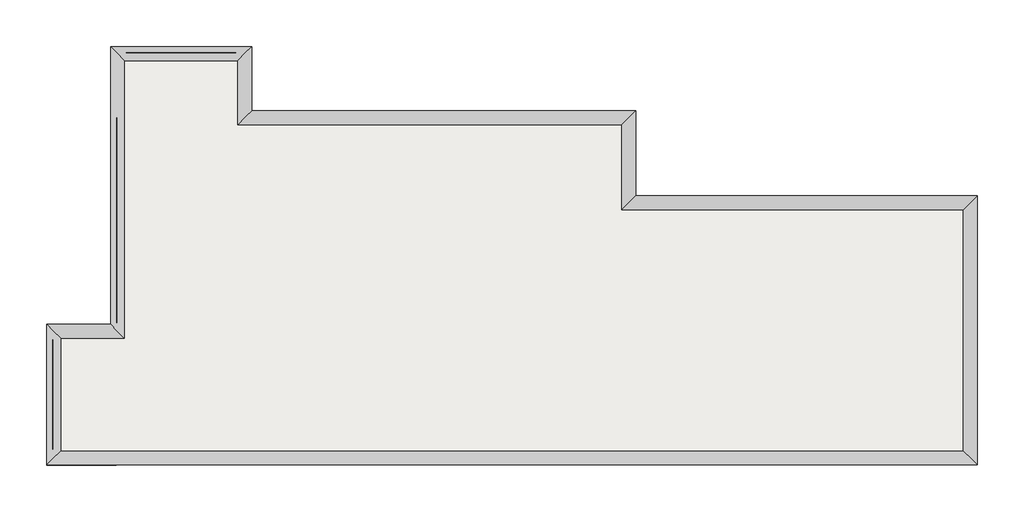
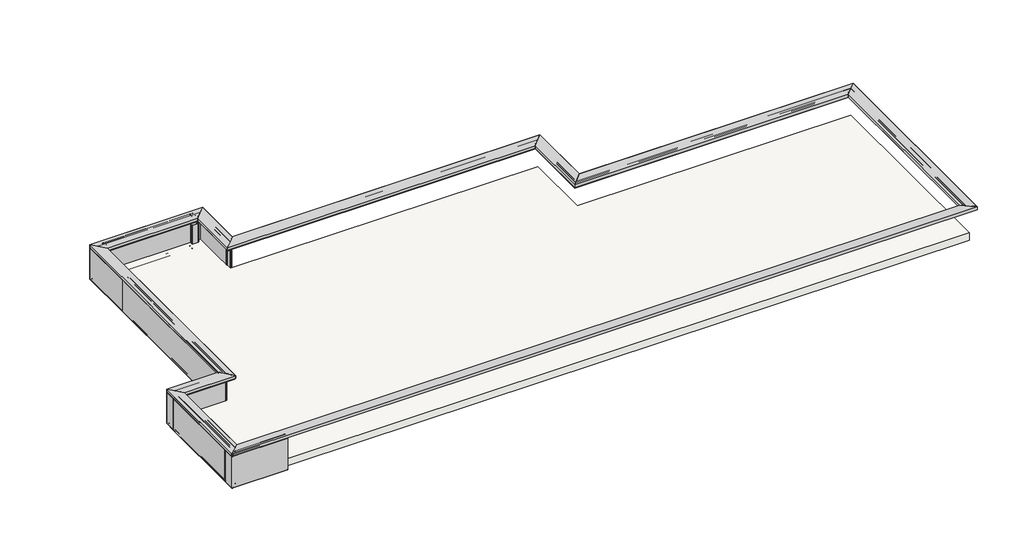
# One storey: 10 proxies, 7 plates, 4 columns, 1 slab.
"""IFC4 building model written with IfcOpenShell, lengths in millimetres."""

from ifc_helpers import new_model, si_unit, frame, origin, place, context, project, spatial, polyline, outline, extrude, transform, mapped, element, save
from components import generic_models_e1d63aaf, generic_models_c406717c, generic_models_abf757f7, generic_models_93ef42b6, generic_models_881d6d34, generic_models_0423d03b, generic_models_c6e7b0bf, generic_models_9ea7565c, generic_models_2194bbd3, generic_models_a8cdbed0, column_200x100x10rhs_d5a4da81, column_200x100x10rhs_a3d8feab, plate_2167fe72, plate_74780102, plate_8496f46f, plate_86350484, plate_61fb994c, plate_5a5dce70, plate_8fd71738, plate_ab96fd29

model = new_model("IFC4")

# Units and contexts
model_context = context("Model", 3, world=origin())
ifc_project = project(units=[si_unit("LENGTHUNIT", "METRE", prefix="MILLI")], contexts=[model_context])

# Site, building, storey
site = spatial("IfcSite", under=ifc_project)
building = spatial("IfcBuilding", under=site)
storey = spatial("IfcBuildingStorey", under=building, Name="Кровля", Elevation=5025.0)

# Proxies
placement = place(None, origin())
generic_models_shape = generic_models_e1d63aaf(model_context)
element("IfcBuildingElementProxy", 1, Name="АК5_1 Парапет : АК5_1 Парапет", ObjectType="АК5_1 Парапет : АК5_1 Парапет", at=placement, inside=storey, context=model_context, shape_type="MappedRepresentation", body=[
    mapped(generic_models_shape, transform((-0.6266445, 0.6539278, 6025.0), x_axis=(1.0, 0.0, 0.0), y_axis=(0.0, 1.0, 0.0), z_axis=(0.0, 0.0, 1.0))),
])
generic_models_2_shape = generic_models_c406717c(model_context)
element("IfcBuildingElementProxy", 2, Name="АК5_1 Парапет : АК5_1 Парапет", ObjectType="АК5_1 Парапет : АК5_1 Парапет", at=placement, inside=storey, context=model_context, shape_type="MappedRepresentation", body=[
    mapped(generic_models_2_shape, transform((21500.5926164, 0.6539278, 6025.0), x_axis=(0.0, 1.0, 0.0), y_axis=(-1.0, 0.0, 0.0), z_axis=(0.0, 0.0, 1.0))),
])
generic_models_3_shape = generic_models_abf757f7(model_context)
element("IfcBuildingElementProxy", 3, Name="АК5_1 Парапет : АК5_1 Парапет", ObjectType="АК5_1 Парапет : АК5_1 Парапет", at=placement, inside=storey, context=model_context, shape_type="MappedRepresentation", body=[
    mapped(generic_models_3_shape, transform((21500.5926164, 6001.0027972, 6025.0), x_axis=(-1.0, 0.0, 0.0), y_axis=(0.0, -1.0, 0.0), z_axis=(0.0, 0.0, 1.0))),
])
generic_models_4_shape = generic_models_93ef42b6(model_context)
element("IfcBuildingElementProxy", 4, Name="АК5_1 Парапет : АК5_1 Парапет", ObjectType="АК5_1 Парапет : АК5_1 Парапет", at=placement, inside=storey, context=model_context, shape_type="MappedRepresentation", body=[
    mapped(generic_models_4_shape, transform((13500.3769569, 6001.0027972, 6025.0), x_axis=(0.0, 1.0, 0.0), y_axis=(-1.0, 0.0, 0.0), z_axis=(0.0, 0.0, 1.0))),
])
generic_models_5_shape = generic_models_881d6d34(model_context)
element("IfcBuildingElementProxy", 5, Name="АК5_1 Парапет : АК5_1 Парапет", ObjectType="АК5_1 Парапет : АК5_1 Парапет", at=placement, inside=storey, context=model_context, shape_type="MappedRepresentation", body=[
    mapped(generic_models_5_shape, transform((13500.3769569, 8000.3865263, 6025.0), x_axis=(-1.0, 0.0, 0.0), y_axis=(0.0, -1.0, 0.0), z_axis=(0.0, 0.0, 1.0))),
])
generic_models_6_shape = generic_models_0423d03b(model_context)
element("IfcBuildingElementProxy", 6, Name="АК5_1 Парапет : АК5_1 Парапет", ObjectType="АК5_1 Парапет : АК5_1 Парапет", at=placement, inside=storey, context=model_context, shape_type="MappedRepresentation", body=[
    mapped(generic_models_6_shape, transform((4500.3722896, 8000.3865263, 6025.0), x_axis=(0.0, 1.0, 0.0), y_axis=(-1.0, 0.0, 0.0), z_axis=(0.0, 0.0, 1.0))),
])
generic_models_7_shape = generic_models_c6e7b0bf(model_context)
element("IfcBuildingElementProxy", 7, Name="АК5_1 Парапет : АК5_1 Парапет", ObjectType="АК5_1 Парапет : АК5_1 Парапет", at=placement, inside=storey, context=model_context, shape_type="MappedRepresentation", body=[
    mapped(generic_models_7_shape, transform((4500.3722896, 9499.4709215, 6025.0), x_axis=(-1.0, 0.0, 0.0), y_axis=(0.0, -1.0, 0.0), z_axis=(0.0, 0.0, 1.0))),
])
generic_models_8_shape = generic_models_9ea7565c(model_context)
element("IfcBuildingElementProxy", 8, Name="АК5_1 Парапет : АК5_1 Парапет", ObjectType="АК5_1 Парапет : АК5_1 Парапет", at=placement, inside=storey, context=model_context, shape_type="MappedRepresentation", body=[
    mapped(generic_models_8_shape, transform((1497.7448909, 9499.4709215, 6025.0), x_axis=(0.0, -1.0, 0.0), y_axis=(1.0, 0.0, 0.0), z_axis=(0.0, 0.0, 1.0))),
])
generic_models_9_shape = generic_models_2194bbd3(model_context)
element("IfcBuildingElementProxy", 9, Name="АК5_1 Парапет : АК5_1 Парапет", ObjectType="АК5_1 Парапет : АК5_1 Парапет", at=placement, inside=storey, context=model_context, shape_type="MappedRepresentation", body=[
    mapped(generic_models_9_shape, transform((-0.6266445, 2999.7492033, 6025.0), x_axis=(0.0, -1.0, 0.0), y_axis=(1.0, 0.0, 0.0), z_axis=(0.0, 0.0, 1.0))),
])
generic_models_10_shape = generic_models_a8cdbed0(model_context)
element("IfcBuildingElementProxy", 10, Name="АК5_1 Парапет : АК5_1 Парапет", ObjectType="АК5_1 Парапет : АК5_1 Парапет", at=placement, inside=storey, context=model_context, shape_type="MappedRepresentation", body=[
    mapped(generic_models_10_shape, transform((1497.7448909, 2999.7492033, 6025.0), x_axis=(-1.0, 0.0, 0.0), y_axis=(0.0, -1.0, 0.0), z_axis=(0.0, 0.0, 1.0))),
])

# Columns
column_200x100x10rhs_shape = column_200x100x10rhs_d5a4da81(model_context)
element("IfcColumn", 11, ObjectType="ППС-Прямоугольное пустотелое сечение-Колонна : 200x100x10RHS", at=placement, inside=storey, context=model_context, shape_type="MappedRepresentation", body=[
    mapped(column_200x100x10rhs_shape, transform((4300.0, 9450.0, 0.0), x_axis=(0.0, -1.0, 0.0), y_axis=(1.0, 0.0, 0.0), z_axis=(0.0, 0.0, 1.0))),
])
element("IfcColumn", 12, ObjectType="ППС-Прямоугольное пустотелое сечение-Колонна : 200x100x10RHS", at=placement, inside=storey, context=model_context, shape_type="MappedRepresentation", body=[
    mapped(column_200x100x10rhs_shape, transform((1700.0, 9450.0, 0.0), x_axis=(0.0, -1.0, 0.0), y_axis=(1.0, 0.0, 0.0), z_axis=(0.0, 0.0, 1.0))),
])
column_200x100x10rhs_2_shape = column_200x100x10rhs_a3d8feab(model_context)
element("IfcColumn", 13, ObjectType="ППС-Прямоугольное пустотелое сечение-Колонна : 200x100x10RHS", at=placement, inside=storey, context=model_context, shape_type="MappedRepresentation", body=[
    mapped(column_200x100x10rhs_2_shape, transform((50.0, 2800.0, 0.0), x_axis=(-1.0, 0.0, 0.0), y_axis=(0.0, -1.0, 0.0), z_axis=(0.0, 0.0, 1.0))),
])
element("IfcColumn", 14, ObjectType="ППС-Прямоугольное пустотелое сечение-Колонна : 200x100x10RHS", at=placement, inside=storey, context=model_context, shape_type="MappedRepresentation", body=[
    mapped(column_200x100x10rhs_2_shape, transform((50.0, 200.0, 0.0), x_axis=(-1.0, 0.0, 0.0), y_axis=(0.0, -1.0, 0.0), z_axis=(0.0, 0.0, 1.0))),
])

# Plates
plate_shape = plate_2167fe72(model_context)
element("IfcPlate", 15, ObjectType="Fronttop : Fronttop 150/1000", at=placement, inside=storey, context=model_context, shape_type="MappedRepresentation", body=[
    mapped(plate_shape, transform((1500.0, 5582.5, 5025.0), x_axis=(0.0, 1.0, 0.0), y_axis=(-1.0, 0.0, 0.0), z_axis=(0.0, 0.0, 1.0))),
])
plate_2_shape = plate_74780102(model_context)
element("IfcPlate", 16, ObjectType="Fronttop : Fronttop 150/1000", at=placement, inside=storey, context=model_context, shape_type="MappedRepresentation", body=[
    mapped(plate_2_shape, transform((0.0, 1500.0, 5025.0), x_axis=(0.0, 1.0, 0.0), y_axis=(-1.0, 0.0, 0.0), z_axis=(0.0, 0.0, 1.0))),
])
element("IfcPlate", 17, ObjectType="Fronttop : Fronttop 150/1000", at=placement, inside=storey, context=model_context, shape_type="MappedRepresentation", body=[
    mapped(plate_2_shape, transform((3000.0, 9500.0, 5025.0), x_axis=(1.0, 0.0, 0.0), y_axis=(0.0, 1.0, 0.0), z_axis=(0.0, 0.0, 1.0))),
])
plate_3_shape = plate_8496f46f(model_context)
plate_4_shape = plate_86350484(model_context)
element("IfcPlate", 18, ObjectType="Угловой модуль Fronttop : Угловой модуль Fronttop 150/1000", at=placement, inside=storey, context=model_context, shape_type="MappedRepresentation", body=[
    mapped(plate_3_shape, transform((0.0, 2975.0, 5025.0), x_axis=(0.0, 1.0, 0.0), y_axis=(-1.0, 0.0, 0.0), z_axis=(0.0, 0.0, 1.0))),
    mapped(plate_4_shape, transform((0.0, 2975.0, 5025.0), x_axis=(0.0, 1.0, 0.0), y_axis=(-1.0, 0.0, 0.0), z_axis=(0.0, 0.0, 1.0))),
])
plate_5_shape = plate_61fb994c(model_context)
plate_6_shape = plate_5a5dce70(model_context)
element("IfcPlate", 19, ObjectType="Угловой модуль Fronttop : Угловой модуль Fronttop 150/1000", at=placement, inside=storey, context=model_context, shape_type="MappedRepresentation", body=[
    mapped(plate_5_shape, transform((675.0, 0.0, 5025.0), x_axis=(-1.0, 0.0, 0.0), y_axis=(0.0, -1.0, 0.0), z_axis=(0.0, 0.0, 1.0))),
    mapped(plate_6_shape, transform((675.0, 0.0, 5025.0), x_axis=(-1.0, 0.0, 0.0), y_axis=(0.0, -1.0, 0.0), z_axis=(0.0, 0.0, 1.0))),
])
element("IfcPlate", 20, ObjectType="Угловой модуль Fronttop : Угловой модуль Fronttop 150/1000", at=placement, inside=storey, context=model_context, shape_type="MappedRepresentation", body=[
    mapped(plate_5_shape, transform((1500.0, 8825.0, 5025.0), x_axis=(0.0, 1.0, 0.0), y_axis=(-1.0, 0.0, 0.0), z_axis=(0.0, 0.0, 1.0))),
    mapped(plate_6_shape, transform((1500.0, 8825.0, 5025.0), x_axis=(0.0, 1.0, 0.0), y_axis=(-1.0, 0.0, 0.0), z_axis=(0.0, 0.0, 1.0))),
])
plate_7_shape = plate_8fd71738(model_context)
plate_8_shape = plate_ab96fd29(model_context)
element("IfcPlate", 21, ObjectType="Угловой модуль Fronttop : Угловой модуль Fronttop 150/1000", at=placement, inside=storey, context=model_context, shape_type="MappedRepresentation", body=[
    mapped(plate_7_shape, transform((4475.0, 9500.0, 5025.0), x_axis=(1.0, 0.0, 0.0), y_axis=(0.0, 1.0, 0.0), z_axis=(0.0, 0.0, 1.0))),
    mapped(plate_8_shape, transform((4475.0, 9500.0, 5025.0), x_axis=(1.0, 0.0, 0.0), y_axis=(0.0, 1.0, 0.0), z_axis=(0.0, 0.0, 1.0))),
])

# Slab
element("IfcSlab", 22, ObjectType="ADSK_Перекрытие_Плита_Бетон_220", at=placement, inside=storey, context=model_context, shape_type="SweptSolid", body=[
    extrude(outline(polyline([(4500.0, 9500.0), (4500.0, 8000.0), (13500.0578348, 8000.0), (13500.0578348, 6000.0), (21500.0, 6000.0), (21500.0, 0.0), (0.0, 0.0), (0.0, 3000.0), (1500.0, 3000.0), (1500.0, 9500.0), (4500.0, 9500.0)])), frame((0.0, 0.0, 5025.0), z_axis=(0.0, 0.0, 1.0), x_axis=(1.0, 0.0, 0.0)), (0.0, 0.0, 1.0), 220.0),
])

save(model, "model.ifc")
